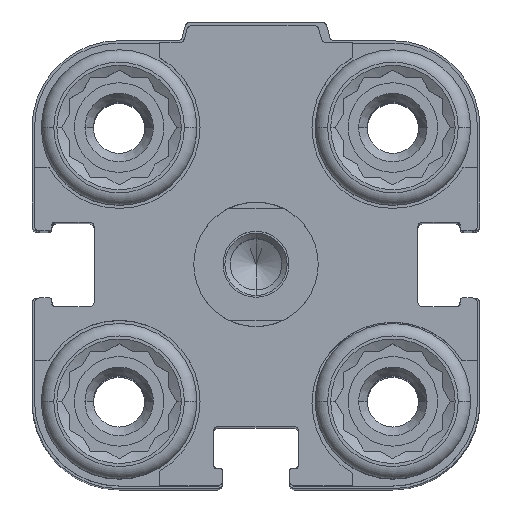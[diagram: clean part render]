
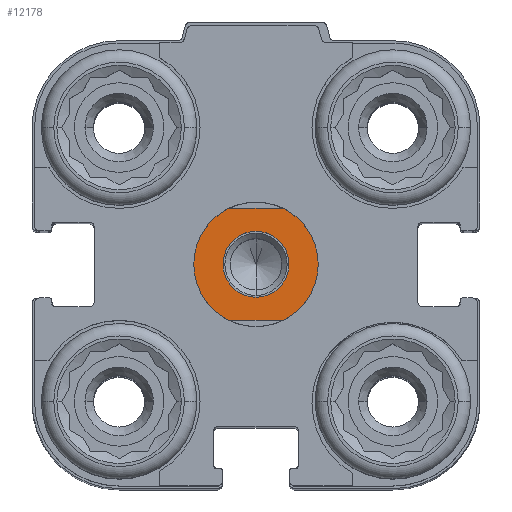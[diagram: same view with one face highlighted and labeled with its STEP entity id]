
A CAD part, top view. The second image highlights one B-rep face of the part: STEP entity #12178.
In plain terms, the highlighted planar face has unit normal (0, 0, 1).
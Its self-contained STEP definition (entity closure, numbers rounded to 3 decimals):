
#857 = VECTOR ( 'NONE', #14554, 1000. ) ;
#860 = FACE_OUTER_BOUND ( 'NONE', #8546, .T. ) ;
#889 = DIRECTION ( 'NONE',  ( -1., 0., 0. ) ) ;
#1092 = CARTESIAN_POINT ( 'NONE',  ( 5., 0., 4.5 ) ) ;
#1235 = VERTEX_POINT ( 'NONE', #18233 ) ;
#1373 = LINE ( 'NONE', #3172, #857 ) ;
#1813 = VECTOR ( 'NONE', #17418, 1000. ) ;
#2193 = DIRECTION ( 'NONE',  ( 0., 0., -1. ) ) ;
#2382 = AXIS2_PLACEMENT_3D ( 'NONE', #5355, #6873, #12711 ) ;
#2512 = ORIENTED_EDGE ( 'NONE', *, *, #6432, .F. ) ;
#3149 = CARTESIAN_POINT ( 'NONE',  ( -5., 0., 4.5 ) ) ;
#3172 = CARTESIAN_POINT ( 'NONE',  ( 9., -4.5, 4.5 ) ) ;
#3338 = ORIENTED_EDGE ( 'NONE', *, *, #4930, .F. ) ;
#3582 = CARTESIAN_POINT ( 'NONE',  ( 0., 2.65, 4.5 ) ) ;
#4119 = CIRCLE ( 'NONE', #13891, 5. ) ;
#4316 = VERTEX_POINT ( 'NONE', #12531 ) ;
#4523 = EDGE_CURVE ( 'NONE', #16357, #14607, #17701, .T. ) ;
#4726 = CIRCLE ( 'NONE', #15392, 2.65 ) ;
#4930 = EDGE_CURVE ( 'NONE', #16542, #4316, #1373, .T. ) ;
#4968 = ORIENTED_EDGE ( 'NONE', *, *, #7944, .T. ) ;
#5009 = DIRECTION ( 'NONE',  ( 0., 0., -1. ) ) ;
#5355 = CARTESIAN_POINT ( 'NONE',  ( 0., 0., 4.5 ) ) ;
#5652 = DIRECTION ( 'NONE',  ( 0., 0., -1. ) ) ;
#5926 = VERTEX_POINT ( 'NONE', #1092 ) ;
#6349 = CARTESIAN_POINT ( 'NONE',  ( 0., 0., 4.5 ) ) ;
#6432 = EDGE_CURVE ( 'NONE', #5926, #16542, #18442, .T. ) ;
#6544 = VERTEX_POINT ( 'NONE', #3149 ) ;
#6873 = DIRECTION ( 'NONE',  ( 0., 0., -1. ) ) ;
#7402 = CARTESIAN_POINT ( 'NONE',  ( -9., 4.5, 4.5 ) ) ;
#7944 = EDGE_CURVE ( 'NONE', #15737, #1235, #10615, .T. ) ;
#8009 = FACE_BOUND ( 'NONE', #13401, .T. ) ;
#8115 = ORIENTED_EDGE ( 'NONE', *, *, #11001, .T. ) ;
#8197 = CARTESIAN_POINT ( 'NONE',  ( 2.179, -4.5, 4.5 ) ) ;
#8546 = EDGE_LOOP ( 'NONE', ( #15415, #11967, #16652, #3338, #2512, #8626 ) ) ;
#8626 = ORIENTED_EDGE ( 'NONE', *, *, #9984, .F. ) ;
#8665 = EDGE_CURVE ( 'NONE', #4316, #6544, #13893, .T. ) ;
#9356 = CARTESIAN_POINT ( 'NONE',  ( 0., 0., 4.5 ) ) ;
#9984 = EDGE_CURVE ( 'NONE', #14607, #5926, #4119, .T. ) ;
#10065 = DIRECTION ( 'NONE',  ( 0., 0., -1. ) ) ;
#10210 = DIRECTION ( 'NONE',  ( 0., 1., 0. ) ) ;
#10248 = AXIS2_PLACEMENT_3D ( 'NONE', #12903, #5652, #889 ) ;
#10615 = CIRCLE ( 'NONE', #2382, 2.65 ) ;
#11001 = EDGE_CURVE ( 'NONE', #1235, #15737, #4726, .T. ) ;
#11967 = ORIENTED_EDGE ( 'NONE', *, *, #16564, .F. ) ;
#12178 = ADVANCED_FACE ( 'NONE', ( #860, #8009 ), #15547, .F. ) ;
#12531 = CARTESIAN_POINT ( 'NONE',  ( -2.179, -4.5, 4.5 ) ) ;
#12587 = CARTESIAN_POINT ( 'NONE',  ( 0., 0., 4.5 ) ) ;
#12711 = DIRECTION ( 'NONE',  ( 0., 1., 0. ) ) ;
#12903 = CARTESIAN_POINT ( 'NONE',  ( 0., 0., 4.5 ) ) ;
#13401 = EDGE_LOOP ( 'NONE', ( #4968, #8115 ) ) ;
#13549 = AXIS2_PLACEMENT_3D ( 'NONE', #9356, #2193, #16881 ) ;
#13891 = AXIS2_PLACEMENT_3D ( 'NONE', #15693, #10065, #14454 ) ;
#13893 = CIRCLE ( 'NONE', #18690, 5. ) ;
#13900 = DIRECTION ( 'NONE',  ( -1., 0., 0. ) ) ;
#14027 = DIRECTION ( 'NONE',  ( -1., 0., 0. ) ) ;
#14402 = CIRCLE ( 'NONE', #14697, 5. ) ;
#14454 = DIRECTION ( 'NONE',  ( -1., 0., 0. ) ) ;
#14554 = DIRECTION ( 'NONE',  ( -1., 0., 0. ) ) ;
#14607 = VERTEX_POINT ( 'NONE', #15017 ) ;
#14697 = AXIS2_PLACEMENT_3D ( 'NONE', #12587, #17251, #14027 ) ;
#14974 = CARTESIAN_POINT ( 'NONE',  ( -2.179, 4.5, 4.5 ) ) ;
#15017 = CARTESIAN_POINT ( 'NONE',  ( 2.179, 4.5, 4.5 ) ) ;
#15392 = AXIS2_PLACEMENT_3D ( 'NONE', #17355, #15926, #10210 ) ;
#15415 = ORIENTED_EDGE ( 'NONE', *, *, #4523, .F. ) ;
#15547 = PLANE ( 'NONE',  #13549 ) ;
#15693 = CARTESIAN_POINT ( 'NONE',  ( 0., 0., 4.5 ) ) ;
#15737 = VERTEX_POINT ( 'NONE', #3582 ) ;
#15926 = DIRECTION ( 'NONE',  ( 0., 0., -1. ) ) ;
#16357 = VERTEX_POINT ( 'NONE', #14974 ) ;
#16542 = VERTEX_POINT ( 'NONE', #8197 ) ;
#16564 = EDGE_CURVE ( 'NONE', #6544, #16357, #14402, .T. ) ;
#16652 = ORIENTED_EDGE ( 'NONE', *, *, #8665, .F. ) ;
#16881 = DIRECTION ( 'NONE',  ( 0., 1., 0. ) ) ;
#17251 = DIRECTION ( 'NONE',  ( 0., 0., -1. ) ) ;
#17355 = CARTESIAN_POINT ( 'NONE',  ( 0., 0., 4.5 ) ) ;
#17418 = DIRECTION ( 'NONE',  ( 1., 0., 0. ) ) ;
#17701 = LINE ( 'NONE', #7402, #1813 ) ;
#18233 = CARTESIAN_POINT ( 'NONE',  ( 0., -2.65, 4.5 ) ) ;
#18442 = CIRCLE ( 'NONE', #10248, 5. ) ;
#18690 = AXIS2_PLACEMENT_3D ( 'NONE', #6349, #5009, #13900 ) ;
